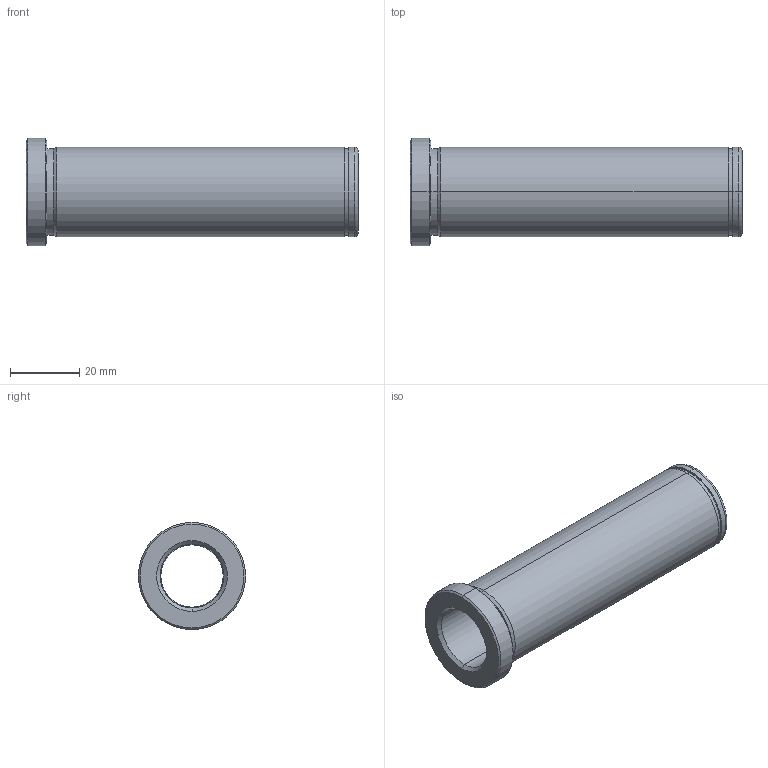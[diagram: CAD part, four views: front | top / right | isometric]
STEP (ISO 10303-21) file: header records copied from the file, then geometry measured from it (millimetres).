
FILE_DESCRIPTION(('CATIA V5 STEP Exchange'),'2;1');
FILE_NAME('C:\Users\Utente\Desktop\IO LAVORO\3D X SITO CF\X SITO\PLASTICA\553\553-18X96.stp','2021-05-23T17:25:39+00:00',('none'),('none'),'CATIA Version 5 Release 20 GA (IN-10)','CATIA V5 STEP AP203','none');
FILE_SCHEMA(('CONFIG_CONTROL_DESIGN'));
Length unit declared in the file: millimetre
Products named in the file (1): 553-18X96
Bounding box: 96 x 31 x 31 mm (x, y, z)
Volume: 27060.4 mm3; surface area: 14385.6 mm2
Topology: 1 solids, 1 shells, 32 faces, 102 edges, 76 vertices
Faces by surface type: cylinder 14, cone 8, plane 6, torus 4
Entity records: 1334 total; most frequent: CARTESIAN_POINT 389, ORIENTED_EDGE 204, DIRECTION 152, EDGE_CURVE 102, AXIS2_PLACEMENT_3D 99, VERTEX_POINT 76, CIRCLE 66, EDGE_LOOP 38
